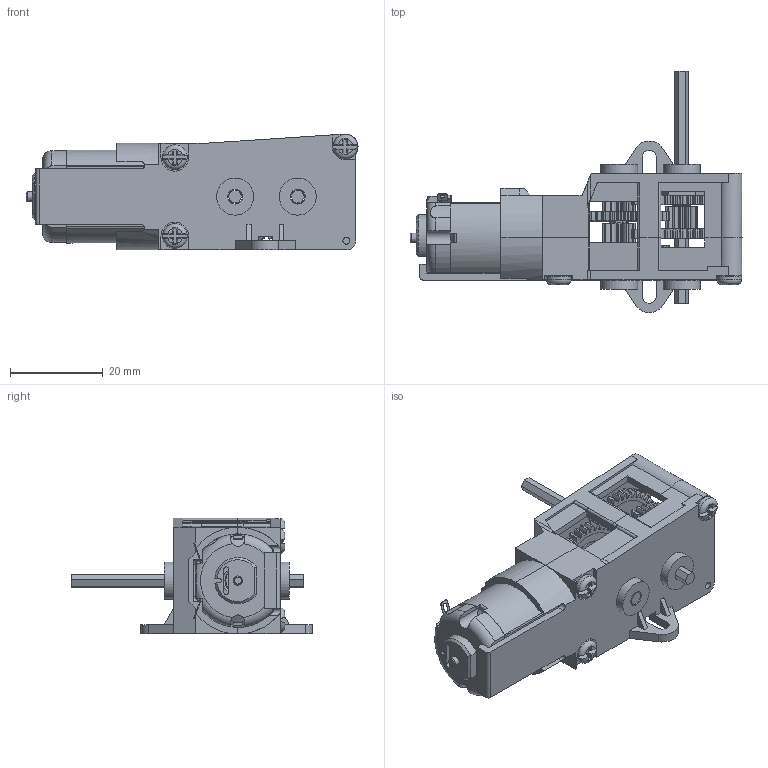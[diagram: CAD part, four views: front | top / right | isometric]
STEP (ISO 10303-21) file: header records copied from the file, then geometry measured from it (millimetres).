
FILE_DESCRIPTION(/* description */ (''),/* implementation_level */ '2;1');
FILE_NAME(/* name */ 'C:/Users/User/Desktop/70093 R v1.step',/* time_stamp */ '2020-09-21T13:34:40+08:00',/* author */ (''),/* organization */ (''),/* preprocessor_version */ 'ST-DEVELOPER v18.1',/* originating_system */ 'Autodesk Translation Framework v9.3.0.1241',/* authorisation */ '');
FILE_SCHEMA (('AUTOMOTIVE_DESIGN { 1 0 10303 214 3 1 1 }'));
Products named in the file (22): 70093 R; house; type_fa130 v2; housing; endbell; brushholder; bush; shaft; brush; roue_8 v1; Healical Gear (8R@0.00); roue_38h_12 v3; roue_42_12 v3; roue_42_12 v3 (1); roue_42_hexa v3; ecrou_lisse v2; M3X3; vis_m3_12 v1; vis_m3_12 v1 (1); vis_m3_12 v1 (2); hex_axis_shot; hex_axis_long
Assembly tree (22 placements, depth 3):
  70093 R
    house
    type_fa130 v2
      housing
      endbell
      brushholder
      brush  x2
      bush
      shaft
    roue_8 v1
      Healical Gear (8R@0.00)
    roue_38h_12 v3
    roue_42_12 v3
    roue_42_12 v3 (1)
    roue_42_hexa v3
    ecrou_lisse v2
    M3X3
    vis_m3_12 v1
    vis_m3_12 v1 (1)
    vis_m3_12 v1 (2)
    hex_axis_shot
    hex_axis_long
Bounding box: 71.6 x 52 x 25 mm (x, y, z)
Volume: 13450.9 mm3; surface area: 22018.2 mm2
Topology: 21 solids, 21 shells, 1828 faces, 5097 edges, 3318 vertices
Faces by surface type: cylinder 666, plane 658, bspline 428, cone 36, torus 28, sphere 12
Full cylindrical faces by diameter (mm): 1.5 x3, 1.7 x1, 2 x2, 2.1 x32, 2.35 x5, 2.5 x30, 2.529 x2, 3 x14, 3.086 x2, 3.2 x4, 4 x4, 5.3 x3, 5.45 x1, 5.55 x1, 6.15 x1, 8 x4, 12 x2, 14 x2, 18 x7, 21.6 x1
Entity records: 73741 total; most frequent: CARTESIAN_POINT 29454, ORIENTED_EDGE 9896, DIRECTION 8325, EDGE_CURVE 4948, VERTEX_POINT 3235, AXIS2_PLACEMENT_3D 3055, LINE 2215, VECTOR 2215
